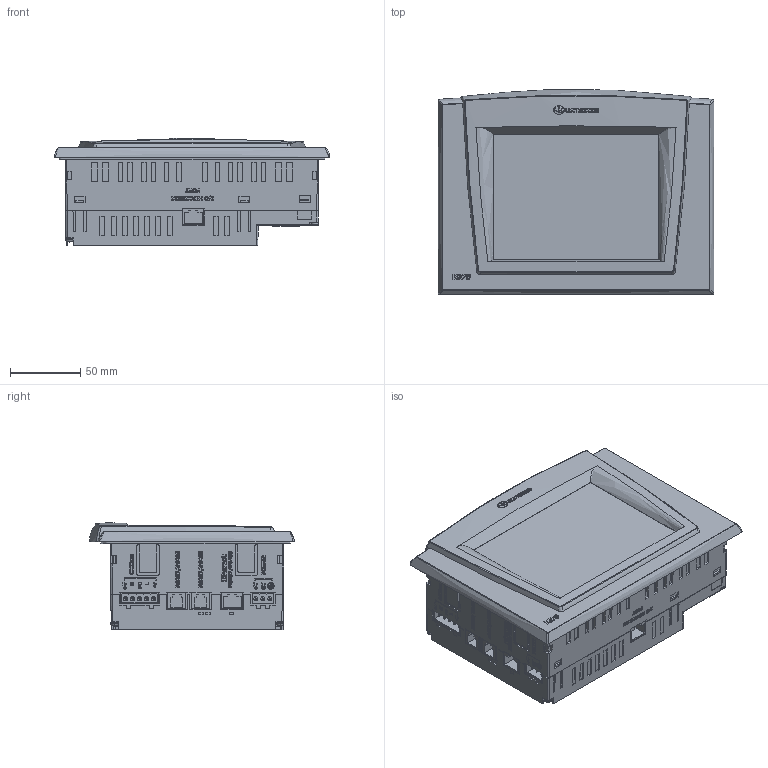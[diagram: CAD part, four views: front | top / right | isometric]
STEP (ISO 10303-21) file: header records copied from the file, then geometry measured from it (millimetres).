
FILE_DESCRIPTION (( 'STEP AP214' ), '1' );
FILE_NAME ('V570.STEP', '2024-04-18T13:30:10', ( '' ), ( '' ), 'SwSTEP 2.0', 'SolidWorks 2022', '' );
FILE_SCHEMA (( 'AUTOMOTIVE_DESIGN' ));
Length unit declared in the file: millimetre
Products named in the file (1): V570
Bounding box: 196.95 x 146.37 x 76.67 mm (x, y, z)
Volume: 1460476.3 mm3; surface area: 158581.8 mm2
Topology: 1 solids, 9 shells, 3932 faces, 10674 edges, 7036 vertices
Faces by surface type: plane 2115, bspline 1343, cylinder 351, cone 81, torus 38, sphere 4
Entity records: 165338 total; most frequent: CARTESIAN_POINT 77120, ORIENTED_EDGE 21340, DIRECTION 12854, EDGE_CURVE 10670, VERTEX_POINT 7036, VECTOR 6526, LINE 6526, EDGE_LOOP 4246
